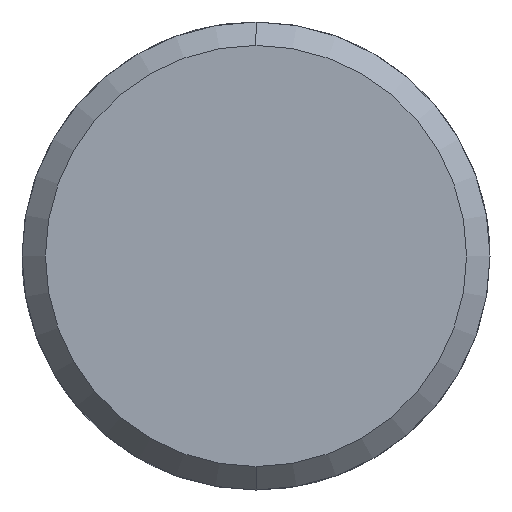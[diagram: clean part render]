
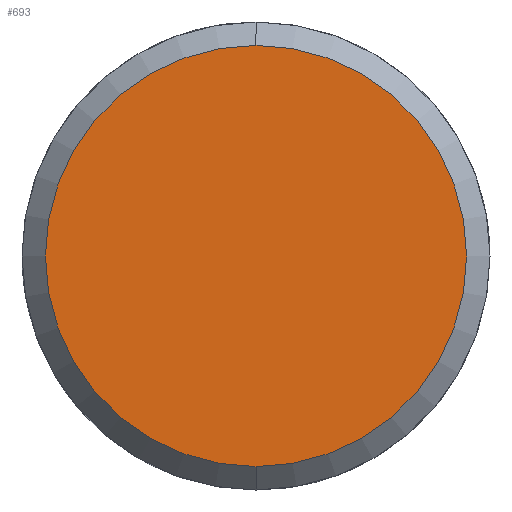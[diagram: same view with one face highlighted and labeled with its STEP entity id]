
A CAD part, left-side view. The second image highlights one B-rep face of the part: STEP entity #693.
In plain terms, the highlighted planar face has unit normal (-1, 0, 0).
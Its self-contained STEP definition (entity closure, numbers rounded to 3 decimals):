
#625=CARTESIAN_POINT('Vertex',(0.,0.,-18.)) ;
#628=CARTESIAN_POINT('Axis2P3D Location',(0.,0.,0.)) ;
#632=CARTESIAN_POINT('Vertex',(0.,18.,0.)) ;
#635=CARTESIAN_POINT('Axis2P3D Location',(0.,0.,0.)) ;
#639=CARTESIAN_POINT('Vertex',(0.,0.,18.)) ;
#661=CARTESIAN_POINT('Axis2P3D Location',(0.,0.,0.)) ;
#665=CARTESIAN_POINT('Vertex',(0.,-18.,0.)) ;
#668=CARTESIAN_POINT('Axis2P3D Location',(0.,0.,0.)) ;
#682=CARTESIAN_POINT('Axis2P3D Location',(0.,0.,0.)) ;
#629=DIRECTION('Axis2P3D Direction',(1.,0.,-0.)) ;
#636=DIRECTION('Axis2P3D Direction',(1.,0.,-0.)) ;
#662=DIRECTION('Axis2P3D Direction',(1.,0.,-0.)) ;
#669=DIRECTION('Axis2P3D Direction',(1.,0.,-0.)) ;
#683=DIRECTION('Axis2P3D Direction',(1.,0.,-0.)) ;
#684=DIRECTION('Axis2P3D XDirection',(-0.,0.,-1.)) ;
#630=AXIS2_PLACEMENT_3D('Circle Axis2P3D',#628,#629,$) ;
#637=AXIS2_PLACEMENT_3D('Circle Axis2P3D',#635,#636,$) ;
#663=AXIS2_PLACEMENT_3D('Circle Axis2P3D',#661,#662,$) ;
#670=AXIS2_PLACEMENT_3D('Circle Axis2P3D',#668,#669,$) ;
#685=AXIS2_PLACEMENT_3D('Plane Axis2P3D',#682,#683,#684) ;
#688=ORIENTED_EDGE('',*,*,#634,.F.) ;
#689=ORIENTED_EDGE('',*,*,#672,.F.) ;
#690=ORIENTED_EDGE('',*,*,#667,.F.) ;
#691=ORIENTED_EDGE('',*,*,#641,.F.) ;
#693=ADVANCED_FACE('395C-032-132/1',(#692),#686,.F.) ;
#631=CIRCLE('generated circle',#630,18.) ;
#638=CIRCLE('generated circle',#637,18.) ;
#664=CIRCLE('generated circle',#663,18.) ;
#671=CIRCLE('generated circle',#670,18.) ;
#634=EDGE_CURVE('',#626,#633,#631,.T.) ;
#641=EDGE_CURVE('',#633,#640,#638,.T.) ;
#667=EDGE_CURVE('',#640,#666,#664,.T.) ;
#672=EDGE_CURVE('',#666,#626,#671,.T.) ;
#687=EDGE_LOOP('',(#688,#689,#690,#691)) ;
#692=FACE_OUTER_BOUND('',#687,.T.) ;
#686=PLANE('Plane',#685) ;
#626=VERTEX_POINT('',#625) ;
#633=VERTEX_POINT('',#632) ;
#640=VERTEX_POINT('',#639) ;
#666=VERTEX_POINT('',#665) ;
